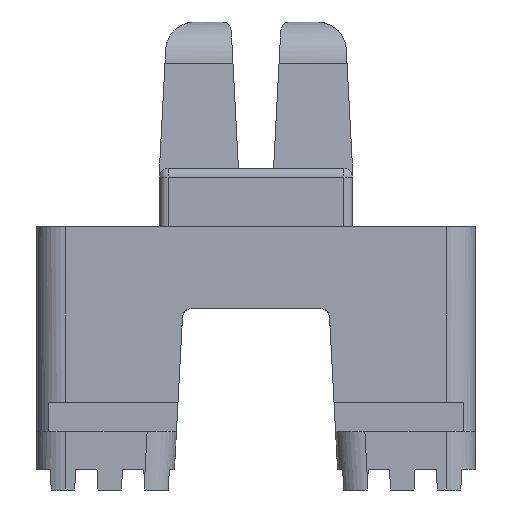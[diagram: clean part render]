
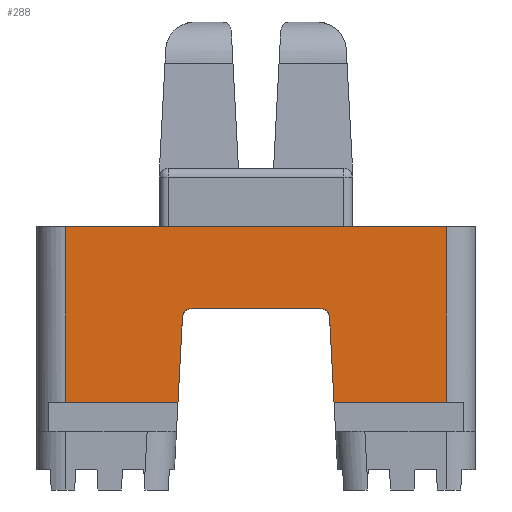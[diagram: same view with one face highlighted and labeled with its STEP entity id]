
A CAD part, left-side view. The second image highlights one B-rep face of the part: STEP entity #288.
In plain terms, the highlighted planar face has unit normal (-1, 0, 0) as drawn and (0, 0, 1) by its records, which use the part's own axes.
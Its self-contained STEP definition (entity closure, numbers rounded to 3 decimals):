
#288=ADVANCED_FACE('',(#670),#671,.T.);
#670=FACE_OUTER_BOUND('',#1168,.T.);
#671=PLANE('',#1169);
#1168=EDGE_LOOP('',(#1967,#1968,#1969,#1970,#1971,#1972,#1973,#1974,#1975,#1976));
#1169=AXIS2_PLACEMENT_3D('',#1977,#1978,#1979);
#1967=ORIENTED_EDGE('',*,*,#3341,.F.);
#1968=ORIENTED_EDGE('',*,*,#3259,.T.);
#1969=ORIENTED_EDGE('',*,*,#3342,.F.);
#1970=ORIENTED_EDGE('',*,*,#3343,.T.);
#1971=ORIENTED_EDGE('',*,*,#3344,.F.);
#1972=ORIENTED_EDGE('',*,*,#3345,.T.);
#1973=ORIENTED_EDGE('',*,*,#3346,.T.);
#1974=ORIENTED_EDGE('',*,*,#3237,.T.);
#1975=ORIENTED_EDGE('',*,*,#3333,.T.);
#1976=ORIENTED_EDGE('',*,*,#3347,.T.);
#1977=CARTESIAN_POINT('',(43.987,-378.414,97.419));
#1978=DIRECTION('',(0.0,0.0,1.0));
#1979=DIRECTION('',(1.0,0.0,0.0));
#3237=EDGE_CURVE('',#3862,#3860,#3863,.T.);
#3259=EDGE_CURVE('',#3892,#3901,#3903,.F.);
#3333=EDGE_CURVE('',#3860,#4029,#4030,.F.);
#3341=EDGE_CURVE('',#3892,#4042,#4043,.T.);
#3342=EDGE_CURVE('',#4044,#3901,#4045,.T.);
#3343=EDGE_CURVE('',#4044,#4046,#4047,.T.);
#3344=EDGE_CURVE('',#4048,#4046,#4049,.T.);
#3345=EDGE_CURVE('',#4048,#4050,#4051,.T.);
#3346=EDGE_CURVE('',#4050,#3862,#4052,.F.);
#3347=EDGE_CURVE('',#4029,#4042,#4053,.T.);
#3860=VERTEX_POINT('',#4762);
#3862=VERTEX_POINT('',#4765);
#3863=LINE('',#4766,#4767);
#3892=VERTEX_POINT('',#4806);
#3901=VERTEX_POINT('',#4817);
#3903=LINE('',#4819,#4820);
#4029=VERTEX_POINT('',#4992);
#4030=CIRCLE('',#4993,0.3);
#4042=VERTEX_POINT('',#5016);
#4043=LINE('',#5017,#5018);
#4044=VERTEX_POINT('',#5019);
#4045=LINE('',#5020,#5021);
#4046=VERTEX_POINT('',#5022);
#4047=LINE('',#5023,#5024);
#4048=VERTEX_POINT('',#5025);
#4049=LINE('',#5026,#5027);
#4050=VERTEX_POINT('',#5028);
#4051=LINE('',#5029,#5030);
#4052=CIRCLE('',#5031,0.3);
#4053=LINE('',#5032,#5033);
#4762=CARTESIAN_POINT('',(53.702,-381.214,97.419));
#4765=CARTESIAN_POINT('',(49.271,-381.214,97.419));
#4766=CARTESIAN_POINT('',(53.987,-381.214,97.419));
#4767=VECTOR('',#5984,1.0);
#4806=CARTESIAN_POINT('',(57.987,-384.414,97.419));
#4817=CARTESIAN_POINT('',(57.987,-378.414,97.419));
#4819=CARTESIAN_POINT('',(57.987,-378.414,97.419));
#4820=VECTOR('',#6022,1.0);
#4992=CARTESIAN_POINT('',(54.002,-381.498,97.419));
#4993=AXIS2_PLACEMENT_3D('',#6111,#6112,#6113);
#5016=CARTESIAN_POINT('',(54.154,-384.414,97.419));
#5017=CARTESIAN_POINT('',(58.987,-384.414,97.419));
#5018=VECTOR('',#6118,1.0);
#5019=CARTESIAN_POINT('',(44.987,-378.414,97.419));
#5020=CARTESIAN_POINT('',(43.987,-378.414,97.419));
#5021=VECTOR('',#6119,1.0);
#5022=CARTESIAN_POINT('',(44.987,-384.414,97.419));
#5023=CARTESIAN_POINT('',(44.987,-385.414,97.419));
#5024=VECTOR('',#6120,1.0);
#5025=CARTESIAN_POINT('',(48.819,-384.414,97.419));
#5026=CARTESIAN_POINT('',(58.987,-384.414,97.419));
#5027=VECTOR('',#6121,1.0);
#5028=CARTESIAN_POINT('',(48.972,-381.498,97.419));
#5029=CARTESIAN_POINT('',(48.987,-381.214,97.419));
#5030=VECTOR('',#6122,1.0);
#5031=AXIS2_PLACEMENT_3D('',#6123,#6124,#6125);
#5032=CARTESIAN_POINT('',(54.312,-387.414,97.419));
#5033=VECTOR('',#6126,1.0);
#5984=DIRECTION('',(1.0,0.0,0.0));
#6022=DIRECTION('',(0.0,-1.0,0.0));
#6111=CARTESIAN_POINT('',(53.702,-381.514,97.419));
#6112=DIRECTION('',(0.0,0.0,1.0));
#6113=DIRECTION('',(1.0,0.0,0.0));
#6118=DIRECTION('',(-1.0,0.0,0.0));
#6119=DIRECTION('',(1.0,0.0,0.0));
#6120=DIRECTION('',(0.0,-1.0,0.0));
#6121=DIRECTION('',(-1.0,0.0,0.0));
#6122=DIRECTION('',(0.052,0.999,0.0));
#6123=CARTESIAN_POINT('',(49.271,-381.514,97.419));
#6124=DIRECTION('',(0.0,0.0,1.0));
#6125=DIRECTION('',(1.0,0.0,0.0));
#6126=DIRECTION('',(0.052,-0.999,0.0));
